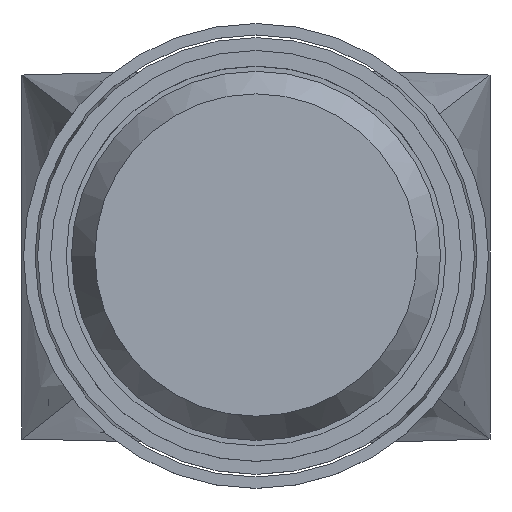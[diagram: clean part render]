
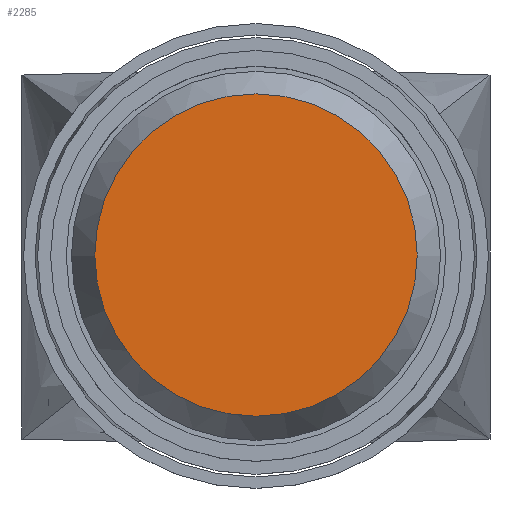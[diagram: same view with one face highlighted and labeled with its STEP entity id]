
A CAD part, top view. The second image highlights one B-rep face of the part: STEP entity #2285.
In plain terms, the highlighted planar face has unit normal (0, 0, 1).
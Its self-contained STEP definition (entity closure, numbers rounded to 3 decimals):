
#2201 = EDGE_CURVE('',#2202,#2202,#2204,.T.);
#2202 = VERTEX_POINT('',#2203);
#2203 = CARTESIAN_POINT('',(310.,0.,1100.));
#2204 = SURFACE_CURVE('',#2205,(#2210,#2222),.PCURVE_S1.);
#2205 = CIRCLE('',#2206,310.);
#2206 = AXIS2_PLACEMENT_3D('',#2207,#2208,#2209);
#2207 = CARTESIAN_POINT('',(0.,0.,1100.));
#2208 = DIRECTION('',(0.,0.,1.));
#2209 = DIRECTION('',(1.,0.,-0.));
#2210 = PCURVE('',#2211,#2216);
#2211 = CONICAL_SURFACE('',#2212,98.,0.329);
#2212 = AXIS2_PLACEMENT_3D('',#2213,#2214,#2215);
#2213 = CARTESIAN_POINT('',(0.,0.,480.));
#2214 = DIRECTION('',(0.,0.,1.));
#2215 = DIRECTION('',(1.,0.,-0.));
#2216 = DEFINITIONAL_REPRESENTATION('',(#2217),#2221);
#2217 = LINE('',#2218,#2219);
#2218 = CARTESIAN_POINT('',(0.,620.));
#2219 = VECTOR('',#2220,1.);
#2220 = DIRECTION('',(1.,0.));
#2221 = ( GEOMETRIC_REPRESENTATION_CONTEXT(2) 
PARAMETRIC_REPRESENTATION_CONTEXT() REPRESENTATION_CONTEXT('2D SPACE',''
  ) );
#2222 = PCURVE('',#2223,#2228);
#2223 = PLANE('',#2224);
#2224 = AXIS2_PLACEMENT_3D('',#2225,#2226,#2227);
#2225 = CARTESIAN_POINT('',(0.,0.,1100.));
#2226 = DIRECTION('',(0.,0.,1.));
#2227 = DIRECTION('',(1.,0.,-0.));
#2228 = DEFINITIONAL_REPRESENTATION('',(#2229),#2233);
#2229 = CIRCLE('',#2230,310.);
#2230 = AXIS2_PLACEMENT_2D('',#2231,#2232);
#2231 = CARTESIAN_POINT('',(0.,0.));
#2232 = DIRECTION('',(1.,0.));
#2233 = ( GEOMETRIC_REPRESENTATION_CONTEXT(2) 
PARAMETRIC_REPRESENTATION_CONTEXT() REPRESENTATION_CONTEXT('2D SPACE',''
  ) );
#2285 = ADVANCED_FACE('',(#2286),#2223,.T.);
#2286 = FACE_BOUND('',#2287,.T.);
#2287 = EDGE_LOOP('',(#2288));
#2288 = ORIENTED_EDGE('',*,*,#2201,.T.);
